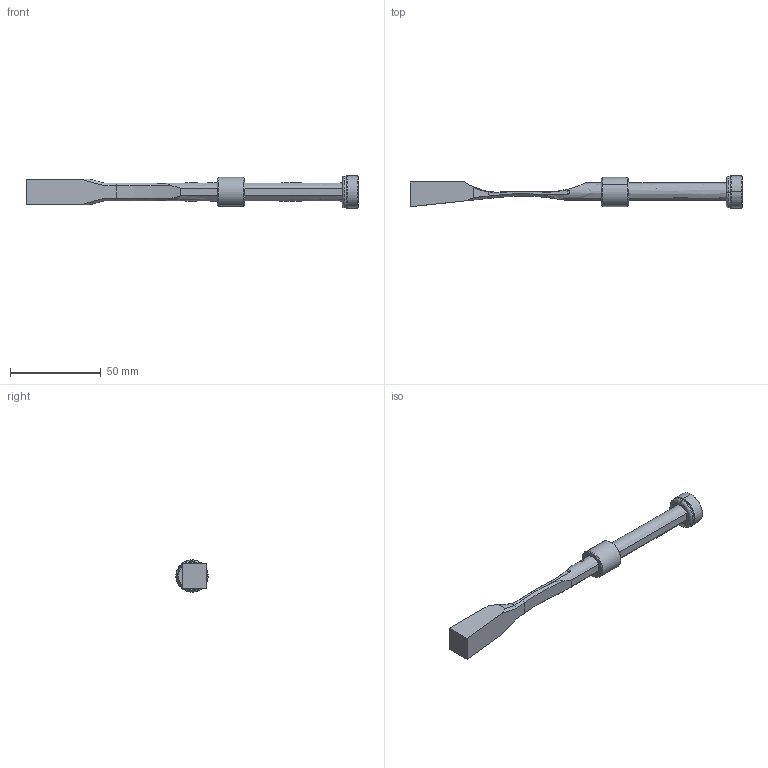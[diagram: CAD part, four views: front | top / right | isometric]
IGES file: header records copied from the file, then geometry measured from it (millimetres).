
Start section: START RECORD GO HERE.
Global section: file name: pw101430_injection.igs; native system: DASSAULT SYSTEMES CATIA V5 R20 - www.3ds.com; preprocessor: CATIA Version 5 Release 20 ; author: Utente; organization: NB04-ASUS; date: 20201108.140935; units: millimetre
Bounding box: 183 x 17.8 x 17.8 mm (x, y, z)
Surface area: 10230.9 mm2 (no closed solid volume)
Topology: 0 solids, 0 shells, 108 faces, 479 edges, 475 vertices
Faces by surface type: revolution 70, plane 36, bspline 2
